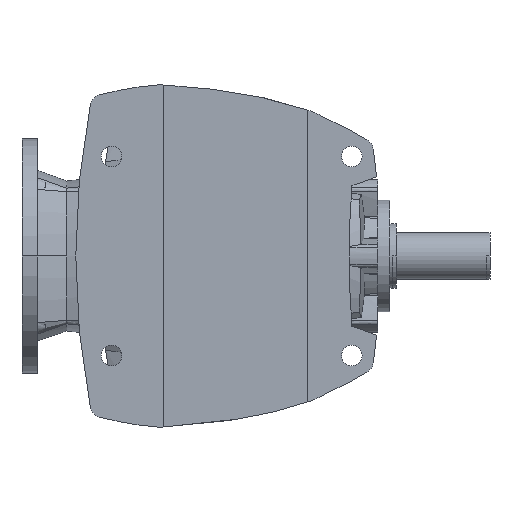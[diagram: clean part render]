
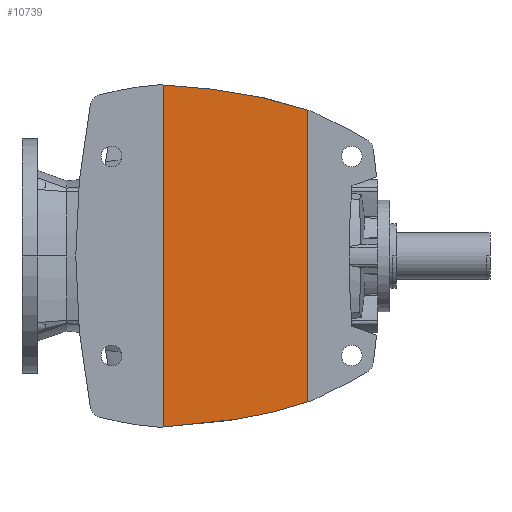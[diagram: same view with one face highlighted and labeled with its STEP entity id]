
A CAD part, front view. The second image highlights one B-rep face of the part: STEP entity #10739.
In plain terms, the highlighted planar face has unit normal (0, -1, 0).
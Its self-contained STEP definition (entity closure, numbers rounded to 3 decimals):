
#1378=CARTESIAN_POINT('',(75.99,6.,124.544));
#1379=CARTESIAN_POINT('',(56.376,6.,131.326));
#1380=CARTESIAN_POINT('',(15.82,6.,140.657));
#1381=CARTESIAN_POINT('',(-25.786,6.,144.801));
#1382=CARTESIAN_POINT('',(-47.01,6.,145.954));
#1714=CARTESIAN_POINT('',(-47.01,6.,-145.956));
#1715=CARTESIAN_POINT('',(-25.786,6.,-144.803));
#1716=CARTESIAN_POINT('',(15.82,6.,-140.659));
#1717=CARTESIAN_POINT('',(56.376,6.,-131.328));
#1718=CARTESIAN_POINT('',(75.99,6.,-124.546));
#1728=DIRECTION('',(0.,0.,1.));
#1729=VECTOR('',#1728,291.91);
#1730=CARTESIAN_POINT('',(-47.01,6.,-145.956));
#1731=LINE('',#1730,#1729);
#1732=DIRECTION('',(0.,0.,1.));
#1733=VECTOR('',#1732,249.09);
#1734=CARTESIAN_POINT('',(75.99,6.,-124.546));
#1735=LINE('',#1734,#1733);
#8930=CARTESIAN_POINT('',(-47.01,6.,-145.956));
#8931=VERTEX_POINT('',#8930);
#8932=VERTEX_POINT('',#1718);
#8933=CARTESIAN_POINT('',(-47.01,6.,145.954));
#8934=VERTEX_POINT('',#8933);
#8935=VERTEX_POINT('',#1378);
#10727=CARTESIAN_POINT('',(-47.01,6.,-175.));
#10728=DIRECTION('',(0.,1.,0.));
#10729=DIRECTION('',(1.,0.,0.));
#10730=AXIS2_PLACEMENT_3D('',#10727,#10728,#10729);
#10731=PLANE('',#10730);
#10732=ORIENTED_EDGE('',*,*,#10713,.F.);
#10733=ORIENTED_EDGE('',*,*,#10312,.T.);
#10734=ORIENTED_EDGE('',*,*,#10299,.F.);
#10736=ORIENTED_EDGE('',*,*,#10735,.F.);
#10737=EDGE_LOOP('',(#10732,#10733,#10734,#10736));
#10738=FACE_OUTER_BOUND('',#10737,.F.);
#10739=ADVANCED_FACE('',(#10738),#10731,.F.);
#1383=B_SPLINE_CURVE_WITH_KNOTS('',3,(#1378,#1379,#1380,#1381,#1382),
.UNSPECIFIED.,.F.,.F.,(4,1,4),(0.,0.494,1.),.UNSPECIFIED.);
#1719=B_SPLINE_CURVE_WITH_KNOTS('',3,(#1714,#1715,#1716,#1717,#1718),
.UNSPECIFIED.,.F.,.F.,(4,1,4),(0.,0.506,1.),.UNSPECIFIED.);
#10299=EDGE_CURVE('',#8935,#8934,#1383,.T.);
#10312=EDGE_CURVE('',#8931,#8934,#1731,.T.);
#10713=EDGE_CURVE('',#8931,#8932,#1719,.T.);
#10735=EDGE_CURVE('',#8932,#8935,#1735,.T.);
